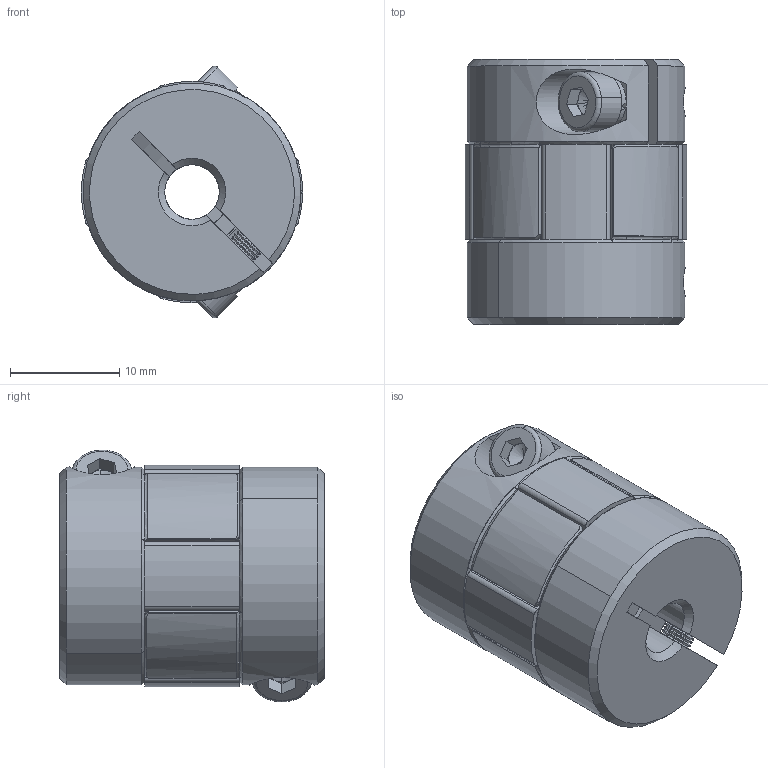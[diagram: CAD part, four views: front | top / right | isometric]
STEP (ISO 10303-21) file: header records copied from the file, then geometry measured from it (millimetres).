
FILE_DESCRIPTION (( 'STEP AP203' ), '1' );
FILE_NAME ('LF-B-D20L25-5-5.STEP', '2021-10-20T01:17:57', ( '' ), ( '' ), 'SwSTEP 2.0', 'SolidWorks 2018', '' );
FILE_SCHEMA (( 'CONFIG_CONTROL_DESIGN' ));
Length unit declared in the file: millimetre
Products named in the file (1): LF-B-D20L25-5-5
Bounding box: 20.31 x 24.3 x 23.09 mm (x, y, z)
Volume: 6717.4 mm3; surface area: 3582.1 mm2
Topology: 1 solids, 1 shells, 431 faces, 1076 edges, 637 vertices
Faces by surface type: cylinder 167, cone 158, plane 94, torus 12
Entity records: 13178 total; most frequent: CARTESIAN_POINT 2731, DIRECTION 2331, ORIENTED_EDGE 2144, EDGE_CURVE 1072, AXIS2_PLACEMENT_3D 959, VERTEX_POINT 637, CIRCLE 527, EDGE_LOOP 447
